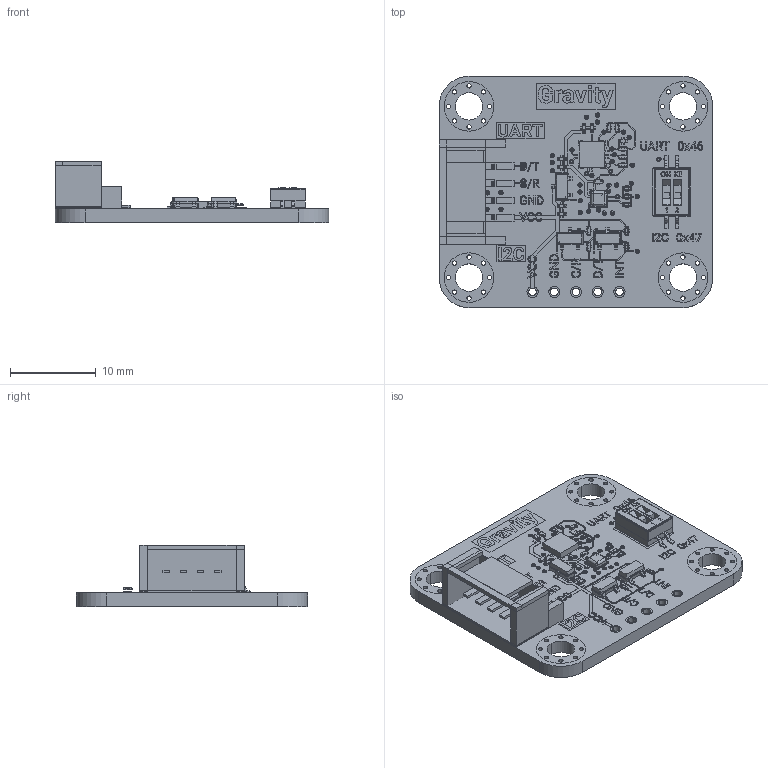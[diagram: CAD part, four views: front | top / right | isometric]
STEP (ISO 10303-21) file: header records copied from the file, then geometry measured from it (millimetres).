
FILE_DESCRIPTION(/* description */ (''),/* implementation_level */ '2;1');
FILE_NAME(/* name */ 'SEN0665',/* time_stamp */ '2025-08-14T15:55:38+08:00',/* author */ (''),/* organization */ (''),/* preprocessor_version */ 'ST-DEVELOPER v19.2',/* originating_system */ 'Rhino 8.0',/* authorisation */ '');
FILE_SCHEMA (('CONFIG_CONTROL_DESIGN'));
Products named in the file (1): Document
Bounding box: 32 x 27 x 7.23 mm (x, y, z)
Volume: 1494.8 mm3; surface area: 3676.6 mm2
Topology: 339 solids, 442 shells, 7184 faces, 20390 edges, 13992 vertices
Faces by surface type: plane 5432, cylinder 1449, bspline 303
Entity records: 224221 total; most frequent: CARTESIAN_POINT 77045, ORIENTED_EDGE 38961, EDGE_CURVE 20354, B_SPLINE_CURVE_WITH_KNOTS 16716, VERTEX_POINT 13992, DIRECTION 12025, AXIS2_PLACEMENT_3D 9452, EDGE_LOOP 7750
